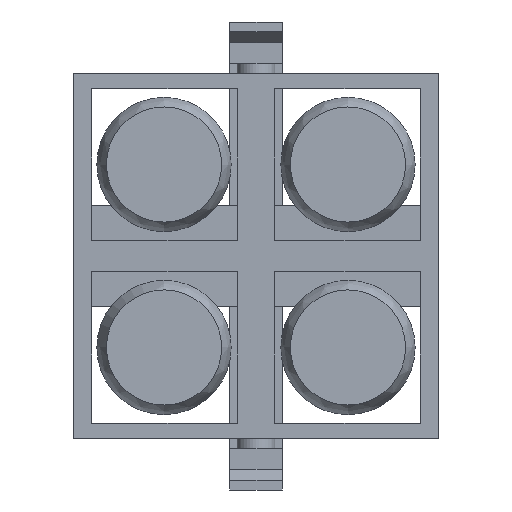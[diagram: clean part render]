
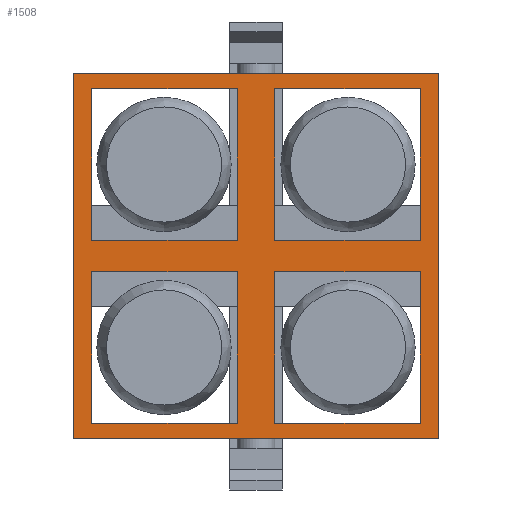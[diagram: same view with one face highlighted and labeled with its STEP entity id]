
A CAD part, front view. The second image highlights one B-rep face of the part: STEP entity #1508.
In plain terms, the highlighted planar face has unit normal (0, -1, 0) as drawn and (-1, 0, 0) by its records, which use the part's own axes.
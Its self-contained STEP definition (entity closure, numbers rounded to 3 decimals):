
#93=FACE_BOUND('',#228,.T.);
#94=FACE_BOUND('',#229,.T.);
#95=FACE_BOUND('',#230,.T.);
#96=FACE_BOUND('',#231,.T.);
#140=FACE_OUTER_BOUND('',#227,.T.);
#227=EDGE_LOOP('',(#1186,#1187,#1188,#1189));
#228=EDGE_LOOP('',(#1190,#1191,#1192,#1193));
#229=EDGE_LOOP('',(#1194,#1195,#1196,#1197));
#230=EDGE_LOOP('',(#1198,#1199,#1200,#1201));
#231=EDGE_LOOP('',(#1202,#1203,#1204,#1205));
#357=LINE('',#2337,#529);
#360=LINE('',#2342,#532);
#362=LINE('',#2346,#534);
#364=LINE('',#2349,#536);
#365=LINE('',#2353,#537);
#368=LINE('',#2358,#540);
#370=LINE('',#2362,#542);
#372=LINE('',#2365,#544);
#374=LINE('',#2370,#546);
#376=LINE('',#2375,#548);
#379=LINE('',#2380,#551);
#381=LINE('',#2384,#553);
#383=LINE('',#2387,#555);
#385=LINE('',#2391,#557);
#386=LINE('',#2395,#558);
#389=LINE('',#2400,#561);
#391=LINE('',#2404,#563);
#393=LINE('',#2407,#565);
#394=LINE('',#2410,#566);
#395=LINE('',#2411,#567);
#529=VECTOR('',#1888,10.);
#532=VECTOR('',#1893,10.);
#534=VECTOR('',#1897,10.);
#536=VECTOR('',#1901,10.);
#537=VECTOR('',#1904,10.);
#540=VECTOR('',#1909,10.);
#542=VECTOR('',#1913,10.);
#544=VECTOR('',#1917,10.);
#546=VECTOR('',#1921,10.);
#548=VECTOR('',#1925,10.);
#551=VECTOR('',#1930,10.);
#553=VECTOR('',#1934,10.);
#555=VECTOR('',#1938,10.);
#557=VECTOR('',#1942,10.);
#558=VECTOR('',#1945,10.);
#561=VECTOR('',#1950,10.);
#563=VECTOR('',#1954,10.);
#565=VECTOR('',#1958,10.);
#566=VECTOR('',#1961,10.);
#567=VECTOR('',#1962,10.);
#683=VERTEX_POINT('',#2335);
#684=VERTEX_POINT('',#2336);
#685=VERTEX_POINT('',#2341);
#686=VERTEX_POINT('',#2345);
#687=VERTEX_POINT('',#2351);
#688=VERTEX_POINT('',#2352);
#689=VERTEX_POINT('',#2357);
#690=VERTEX_POINT('',#2361);
#691=VERTEX_POINT('',#2367);
#692=VERTEX_POINT('',#2369);
#693=VERTEX_POINT('',#2373);
#694=VERTEX_POINT('',#2374);
#695=VERTEX_POINT('',#2379);
#696=VERTEX_POINT('',#2383);
#697=VERTEX_POINT('',#2389);
#698=VERTEX_POINT('',#2393);
#699=VERTEX_POINT('',#2394);
#700=VERTEX_POINT('',#2399);
#701=VERTEX_POINT('',#2403);
#702=VERTEX_POINT('',#2409);
#845=EDGE_CURVE('',#683,#684,#357,.T.);
#848=EDGE_CURVE('',#685,#683,#360,.T.);
#850=EDGE_CURVE('',#686,#685,#362,.T.);
#852=EDGE_CURVE('',#684,#686,#364,.T.);
#853=EDGE_CURVE('',#687,#688,#365,.T.);
#856=EDGE_CURVE('',#689,#687,#368,.T.);
#858=EDGE_CURVE('',#690,#689,#370,.T.);
#860=EDGE_CURVE('',#688,#690,#372,.T.);
#862=EDGE_CURVE('',#692,#691,#374,.T.);
#864=EDGE_CURVE('',#693,#694,#376,.T.);
#867=EDGE_CURVE('',#695,#693,#379,.T.);
#869=EDGE_CURVE('',#696,#695,#381,.T.);
#871=EDGE_CURVE('',#694,#696,#383,.T.);
#873=EDGE_CURVE('',#697,#691,#385,.T.);
#874=EDGE_CURVE('',#698,#699,#386,.T.);
#877=EDGE_CURVE('',#700,#698,#389,.T.);
#879=EDGE_CURVE('',#701,#700,#391,.T.);
#881=EDGE_CURVE('',#699,#701,#393,.T.);
#882=EDGE_CURVE('',#702,#692,#394,.T.);
#883=EDGE_CURVE('',#702,#697,#395,.T.);
#1186=ORIENTED_EDGE('',*,*,#882,.T.);
#1187=ORIENTED_EDGE('',*,*,#862,.T.);
#1188=ORIENTED_EDGE('',*,*,#873,.F.);
#1189=ORIENTED_EDGE('',*,*,#883,.F.);
#1190=ORIENTED_EDGE('',*,*,#853,.F.);
#1191=ORIENTED_EDGE('',*,*,#856,.F.);
#1192=ORIENTED_EDGE('',*,*,#858,.F.);
#1193=ORIENTED_EDGE('',*,*,#860,.F.);
#1194=ORIENTED_EDGE('',*,*,#845,.T.);
#1195=ORIENTED_EDGE('',*,*,#852,.T.);
#1196=ORIENTED_EDGE('',*,*,#850,.T.);
#1197=ORIENTED_EDGE('',*,*,#848,.T.);
#1198=ORIENTED_EDGE('',*,*,#864,.F.);
#1199=ORIENTED_EDGE('',*,*,#867,.F.);
#1200=ORIENTED_EDGE('',*,*,#869,.F.);
#1201=ORIENTED_EDGE('',*,*,#871,.F.);
#1202=ORIENTED_EDGE('',*,*,#874,.T.);
#1203=ORIENTED_EDGE('',*,*,#881,.T.);
#1204=ORIENTED_EDGE('',*,*,#879,.T.);
#1205=ORIENTED_EDGE('',*,*,#877,.T.);
#1437=PLANE('',#1676);
#1508=ADVANCED_FACE('',(#140,#93,#94,#95,#96),#1437,.T.);
#1676=AXIS2_PLACEMENT_3D('',#2408,#1959,#1960);
#1888=DIRECTION('',(0.,1.,0.));
#1893=DIRECTION('',(0.,0.,-1.));
#1897=DIRECTION('',(0.,-1.,0.));
#1901=DIRECTION('',(0.,0.,1.));
#1904=DIRECTION('',(0.,-1.,0.));
#1909=DIRECTION('',(0.,0.,-1.));
#1913=DIRECTION('',(0.,1.,0.));
#1917=DIRECTION('',(0.,0.,1.));
#1921=DIRECTION('',(0.,-1.,0.));
#1925=DIRECTION('',(0.,1.,0.));
#1930=DIRECTION('',(0.,0.,1.));
#1934=DIRECTION('',(0.,-1.,0.));
#1938=DIRECTION('',(0.,0.,-1.));
#1942=DIRECTION('',(0.,0.,-1.));
#1945=DIRECTION('',(0.,-1.,0.));
#1950=DIRECTION('',(0.,0.,1.));
#1954=DIRECTION('',(0.,1.,0.));
#1958=DIRECTION('',(0.,0.,-1.));
#1959=DIRECTION('center_axis',(-1.,0.,0.));
#1960=DIRECTION('ref_axis',(0.,0.,1.));
#1961=DIRECTION('',(0.,0.,-1.));
#1962=DIRECTION('',(0.,-1.,0.));
#2335=CARTESIAN_POINT('',(-46.3,-170.338,-173.692));
#2336=CARTESIAN_POINT('',(-46.3,-19.703,-173.692));
#2337=CARTESIAN_POINT('',(-46.3,-132.669,-173.692));
#2341=CARTESIAN_POINT('',(-46.3,-170.338,-16.293));
#2342=CARTESIAN_POINT('',(-46.3,-170.338,-55.646));
#2345=CARTESIAN_POINT('',(-46.3,-19.703,-16.293));
#2346=CARTESIAN_POINT('',(-46.3,-57.351,-16.293));
#2349=CARTESIAN_POINT('',(-46.3,-19.703,-134.346));
#2351=CARTESIAN_POINT('',(-46.3,170.338,-173.692));
#2352=CARTESIAN_POINT('',(-46.3,19.703,-173.692));
#2353=CARTESIAN_POINT('',(-46.3,132.669,-173.692));
#2357=CARTESIAN_POINT('',(-46.3,170.338,-16.293));
#2358=CARTESIAN_POINT('',(-46.3,170.338,-55.646));
#2361=CARTESIAN_POINT('',(-46.3,19.703,-16.293));
#2362=CARTESIAN_POINT('',(-46.3,57.351,-16.293));
#2365=CARTESIAN_POINT('',(-46.3,19.703,-134.346));
#2367=CARTESIAN_POINT('',(-46.3,-190.,-190.));
#2369=CARTESIAN_POINT('',(-46.3,190.,-190.));
#2370=CARTESIAN_POINT('',(-46.3,142.5,-190.));
#2373=CARTESIAN_POINT('',(-46.3,-170.338,173.692));
#2374=CARTESIAN_POINT('',(-46.3,-19.703,173.692));
#2375=CARTESIAN_POINT('',(-46.3,-132.669,173.692));
#2379=CARTESIAN_POINT('',(-46.3,-170.338,16.293));
#2380=CARTESIAN_POINT('',(-46.3,-170.338,55.646));
#2383=CARTESIAN_POINT('',(-46.3,-19.703,16.293));
#2384=CARTESIAN_POINT('',(-46.3,-57.351,16.293));
#2387=CARTESIAN_POINT('',(-46.3,-19.703,134.346));
#2389=CARTESIAN_POINT('',(-46.3,-190.,190.));
#2391=CARTESIAN_POINT('',(-46.3,-190.,47.5));
#2393=CARTESIAN_POINT('',(-46.3,170.338,173.692));
#2394=CARTESIAN_POINT('',(-46.3,19.703,173.692));
#2395=CARTESIAN_POINT('',(-46.3,132.669,173.692));
#2399=CARTESIAN_POINT('',(-46.3,170.338,16.293));
#2400=CARTESIAN_POINT('',(-46.3,170.338,55.646));
#2403=CARTESIAN_POINT('',(-46.3,19.703,16.293));
#2404=CARTESIAN_POINT('',(-46.3,57.351,16.293));
#2407=CARTESIAN_POINT('',(-46.3,19.703,134.346));
#2408=CARTESIAN_POINT('Origin',(-46.3,95.,95.));
#2409=CARTESIAN_POINT('',(-46.3,190.,190.));
#2410=CARTESIAN_POINT('',(-46.3,190.,47.5));
#2411=CARTESIAN_POINT('',(-46.3,142.5,190.));
